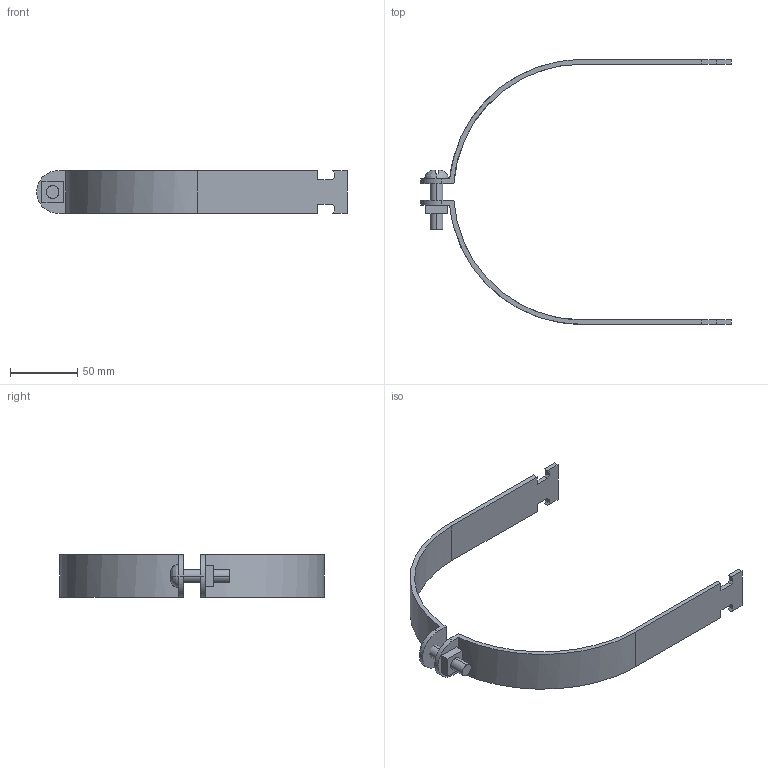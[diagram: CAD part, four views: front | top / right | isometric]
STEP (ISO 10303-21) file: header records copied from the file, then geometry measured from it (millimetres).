
FILE_DESCRIPTION(('TurboCAD Mac Pro'),'Build 980');
FILE_NAME('P2070-74.stp',' ',(''),(''),'ACIS Interop','IMSI','TurboCAD Mac Pro BY IMSI, INCORPORATED');
FILE_SCHEMA(('automotive_design'));
Length unit declared in the file: inch
Products named in the file (5): 1; 2; 3; 4; 5
Bounding box: 231.78 x 197.47 x 31.75 mm (x, y, z)
Volume: 63895.9 mm3; surface area: 41574.6 mm2
Topology: 4 solids, 4 shells, 71 faces, 186 edges, 124 vertices
Faces by surface type: plane 51, bspline 20
Entity records: 3487 total; most frequent: CARTESIAN_POINT 1050, ORIENTED_EDGE 372, DIRECTION 258, EDGE_CURVE 186, LINE 138, VECTOR 138, VERTEX_POINT 124, STYLED_ITEM 91
